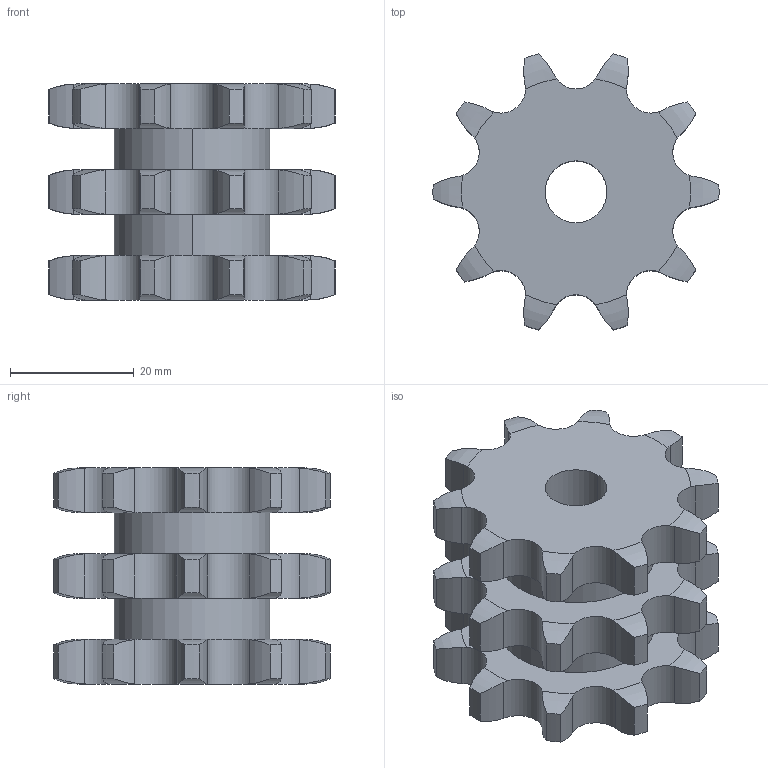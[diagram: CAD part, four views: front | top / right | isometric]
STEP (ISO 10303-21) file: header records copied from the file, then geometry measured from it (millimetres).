
FILE_DESCRIPTION((''),'2;1');
FILE_NAME('500-203-0010_PRT','2021-02-12T',('Brieden'),('Brieden'),'PRO/ENGINEER BY PARAMETRIC TECHNOLOGY CORPORATION, 2010160','PRO/ENGINEER BY PARAMETRIC TECHNOLOGY CORPORATION, 2010160','');
FILE_SCHEMA(('AUTOMOTIVE_DESIGN { 1 0 10303 214 1 1 1 1 }'));
Length unit declared in the file: millimetre
Products named in the file (1): 500-203-0010_PRT
Bounding box: 46.19 x 44.61 x 34.9 mm (x, y, z)
Volume: 29120.3 mm3; surface area: 11084.2 mm2
Topology: 1 solids, 1 shells, 192 faces, 558 edges, 372 vertices
Faces by surface type: cylinder 126, torus 60, plane 6
Entity records: 8855 total; most frequent: CARTESIAN_POINT 2318, ORIENTED_EDGE 1116, DIRECTION 894, PRESENTATION_STYLE_ASSIGNMENT 559, STYLED_ITEM 559, CURVE_STYLE 558, EDGE_CURVE 558, AXIS2_PLACEMENT_3D 384
